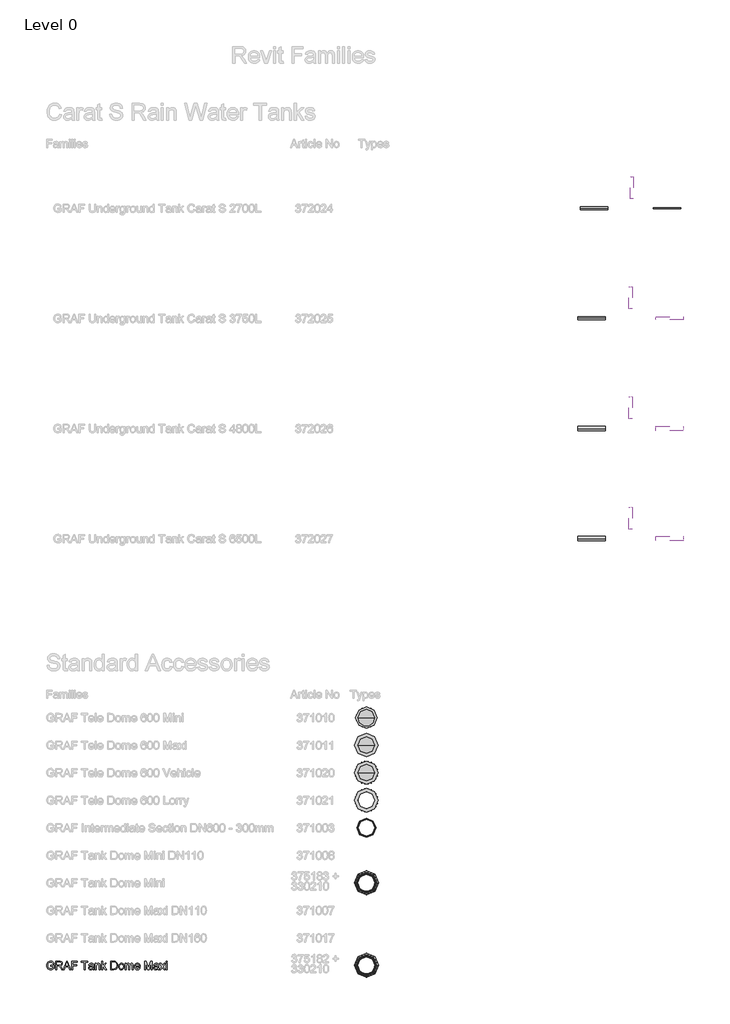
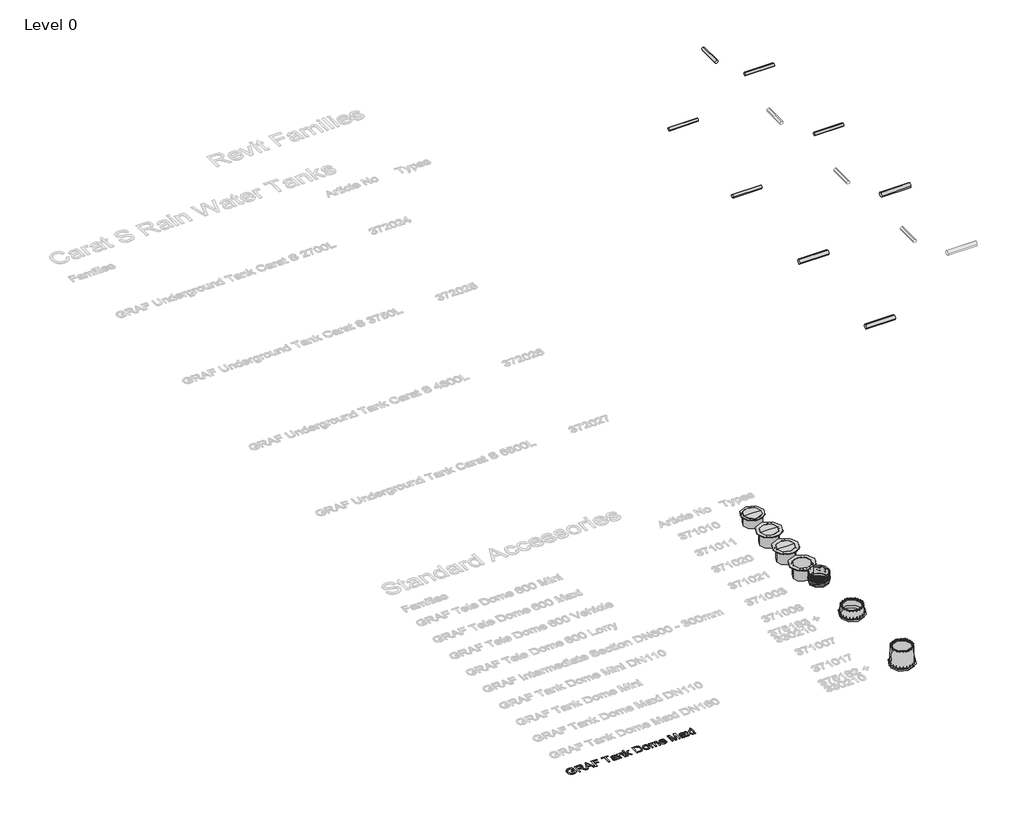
# One storey, part 1 of 20: 12 pipe segments, 8 proxies.
"""IFC4 building model written with IfcOpenShell, lengths in millimetres."""

from ifc_helpers import new_model, si_unit, point, frame, frame_2d, origin, origin_with_axes, place, context, project, spatial, polyline, circle_curve, trimmed, segment, composite_curve, outline, extrude, transform, mapped, element, save
from components import specialty_equipment_e8b2a2d0, specialty_equipment_5184973a, specialty_equipment_2c5f0238, proxy_600_mini_2_8c9d897d, dome_600_vehicle_2_504724ee, intermediate_section_dn600_300mm_2_32245d74, tank_dome_mini_c82e10f8

model = new_model("IFC4")

# Units and contexts
model_context = context("Model", 3, world=origin())
ifc_project = project(units=[si_unit("LENGTHUNIT", "METRE", prefix="MILLI")], contexts=[model_context])

# Site, building, storey
site = spatial("IfcSite", under=ifc_project)
building = spatial("IfcBuilding", under=site)
storey = spatial("IfcBuildingStorey", under=building, Name="Level 0", Elevation=0.0)

# Proxies
placement = place(None, origin())
specialty_equipment_shape = specialty_equipment_e8b2a2d0(model_context)
element("IfcBuildingElementProxy", 1, Name="GRAF Tank Dome Maxi : Tank Dome Maxi", ObjectType="GRAF Tank Dome Maxi : Tank Dome Maxi", at=placement, inside=storey, context=model_context, shape_type="MappedRepresentation", body=[
    mapped(specialty_equipment_shape, transform((-3770.8351154, -18050.7016432, 0.0), x_axis=(1.0, 0.0, 0.0), y_axis=(0.0, 1.0, 0.0), z_axis=(0.0, 0.0, 1.0))),
])
specialty_equipment_2_shape = specialty_equipment_5184973a(model_context)
element("IfcBuildingElementProxy", 2, Name="GRAF Tele Dome 600 Maxi : 600 Maxi 2", ObjectType="GRAF Tele Dome 600 Maxi : 600 Maxi 2", at=placement, inside=storey, context=model_context, shape_type="MappedRepresentation", body=[
    mapped(specialty_equipment_2_shape, transform((-3770.8351154, -10051.0975649, 0.0), x_axis=(1.0, 0.0, 0.0), y_axis=(0.0, 1.0, 0.0), z_axis=(0.0, 0.0, 1.0))),
])
specialty_equipment_3_shape = specialty_equipment_2c5f0238(model_context)
element("IfcBuildingElementProxy", 3, Name="GRAF Tele Dome 600 Lorry : Dome 600 Lorry 2", ObjectType="GRAF Tele Dome 600 Lorry : Dome 600 Lorry 2", at=placement, inside=storey, context=model_context, shape_type="MappedRepresentation", body=[
    mapped(specialty_equipment_3_shape, transform((-3770.8351154, -12050.7016432, 0.0), x_axis=(1.0, 0.0, 0.0), y_axis=(0.0, 1.0, 0.0), z_axis=(0.0, 0.0, 1.0))),
])
element("IfcBuildingElementProxy", 4, Name="300mm Arial", ObjectType="300mm Arial", at=placement, inside=storey, context=model_context, shape_type="SweptSolid", body=[
    extrude(outline(polyline([(-15240.9940387, -18082.9794047), (-15240.9940387, -18045.3082884), (-15118.5629107, -18045.3082884), (-15118.5629107, -18157.9537553), (-15148.3153671, -18178.6471176), (-15179.0059225, -18193.4911561), (-15210.5610007, -18202.4306885), (-15242.9070251, -18205.4105327), (-15285.1674693, -18200.674052), (-15323.3628175, -18186.46461), (-15355.0926395, -18163.2788472), (-15377.9565055, -18131.6134045), (-15391.7796715, -18093.6295885), (-15396.3873935, -18051.4887059), (-15391.7980656, -18009.0443207), (-15378.0300819, -17969.5613856), (-15355.6536596, -17936.442809), (-15325.2390156, -17913.0914993), (-15288.1932987, -17899.2407422), (-15245.9236575, -17894.6238232), (-15214.8928112, -17897.3001647), (-15186.9889618, -17905.3291892), (-15163.4904994, -17918.1314827), (-15145.6758138, -17935.1276309), (-15132.4964413, -17957.1361712), (-15122.9039183, -17984.9756412), (-15157.6319786, -17994.7613023), (-15165.3850917, -17974.9048716), (-15174.8120678, -17959.9228773), (-15187.2832674, -17948.6289001), (-15204.169051, -17939.8365204), (-15224.3013932, -17934.1803347), (-15246.5122687, -17932.2949395), (-15272.5123287, -17934.3274875), (-15294.7415982, -17940.4251316), (-15313.1173039, -17949.8245166), (-15327.5566722, -17961.7622873), (-15346.9440533, -17990.7881767), (-15355.7732212, -18019.225455), (-15358.7162772, -18049.9436015), (-15355.175413, -18085.9684459), (-15344.5528204, -18115.6105377), (-15327.1703961, -18138.6583447), (-15303.3500369, -18154.9003348), (-15275.4737787, -18164.529646), (-15245.9236575, -18167.7394164), (-15219.831627, -18165.3205923), (-15194.3833899, -18158.0641199), (-15172.2828791, -18148.0669267), (-15156.234027, -18137.42594), (-15156.234027, -18082.9794047), (-15240.9940387, -18082.9794047)])), origin_with_axes(), (0.0, 0.0, 1.0), 10.0),
    extrude(outline(polyline([(-15057.3473467, -18200.7016432), (-15057.3473467, -17899.3327127), (-14927.4850024, -17899.3327127), (-14892.5821982, -17901.3652607), (-14867.1891434, -17907.4629048), (-14848.6294968, -17918.7200939), (-14834.2269167, -17936.2312768), (-14824.9838815, -17957.9455116), (-14821.9028698, -17981.811856), (-14827.0072325, -18011.4999331), (-14842.3203206, -18036.1112385), (-14853.9200997, -18046.1406214), (-14868.3019865, -18054.1558504), (-14905.4120827, -18064.1438466), (-14884.0013506, -18080.257078), (-14853.467145, -18119.0318402), (-14803.2144645, -18200.7016432), (-14846.9924219, -18200.7016432), (-14886.2086426, -18138.2352804), (-14914.5355562, -18096.8853441), (-14934.4379722, -18077.3508102), (-14952.3538253, -18070.1771113), (-14974.2060158, -18068.8527361), (-15019.6762304, -18068.8527361), (-15019.6762304, -18200.7016432), (-15057.3473467, -18200.7016432)]), holes=[polyline([(-15019.6762304, -18031.1816198), (-14935.3576771, -18031.1816198), (-14911.1418448, -18029.8480476), (-14892.3522719, -18025.8473309), (-14878.2072092, -18018.9127553), (-14867.9249074, -18008.7776063), (-14861.6617165, -17996.5179388), (-14859.5739861, -17983.2098076), (-14863.5563087, -17964.834102), (-14875.5032765, -17950.0268517), (-14896.058683, -17940.2595847), (-14925.8663217, -17937.003829), (-15019.6762304, -17937.003829), (-15019.6762304, -18031.1816198)])]), origin_with_axes(), (0.0, 0.0, 1.0), 10.0),
    extrude(outline(polyline([(-14791.0743586, -18200.7016432), (-14670.7769462, -17899.3327127), (-14638.6976362, -17899.3327127), (-14518.4002238, -18200.7016432), (-14558.2050557, -18200.7016432), (-14592.7123868, -18106.5238524), (-14716.835772, -18106.5238524), (-14751.2695268, -18200.7016432), (-14791.0743586, -18200.7016432)]), holes=[polyline([(-14703.003409, -18068.8527361), (-14606.4711735, -18068.8527361), (-14633.6208647, -17994.7613023), (-14654.7372912, -17937.003829), (-14673.499273, -17988.2865792), (-14703.003409, -18068.8527361)])]), origin_with_axes(), (0.0, 0.0, 1.0), 10.0),
    extrude(outline(polyline([(-14478.1539335, -18200.7016432), (-14478.1539335, -17899.3327127), (-14275.6716834, -17899.3327127), (-14275.6716834, -17937.003829), (-14440.4828172, -17937.003829), (-14440.4828172, -18026.4727303), (-14299.2161311, -18026.4727303), (-14299.2161311, -18064.1438466), (-14440.4828172, -18064.1438466), (-14440.4828172, -18200.7016432), (-14478.1539335, -18200.7016432)])), origin_with_axes(), (0.0, 0.0, 1.0), 10.0),
    extrude(outline(polyline([(-14030.8094274, -18200.7016432), (-14030.8094274, -17937.003829), (-14129.6961077, -17937.003829), (-14129.6961077, -17899.3327127), (-13894.2516308, -17899.3327127), (-13894.2516308, -17937.003829), (-13993.1383111, -17937.003829), (-13993.1383111, -18200.7016432), (-14030.8094274, -18200.7016432)])), origin_with_axes(), (0.0, 0.0, 1.0), 10.0),
    extrude(outline(polyline([(-13715.3138283, -18172.4483059), (-13733.312455, -18187.8809556), (-13751.8445105, -18197.9793164), (-13771.3330592, -18203.5527286), (-13792.2011653, -18205.4105327), (-13823.6826671, -18200.9407665), (-13846.905218, -18187.5314677), (-13861.2250247, -18167.1691993), (-13865.9982936, -18141.8405239), (-13864.1956718, -18126.2239332), (-13858.7878065, -18112.0420823), (-13850.4460822, -18099.9019765), (-13839.8418837, -18090.410621), (-13813.4647447, -18078.049786), (-13780.8703999, -18072.3844033), (-13742.353155, -18066.4247149), (-13715.5345575, -18059.434957), (-13715.3138283, -18051.0472475), (-13717.9073964, -18034.2350404), (-13725.6881006, -18023.2353687), (-13743.088919, -18015.0683884), (-13767.3323425, -18012.3460616), (-13789.7731442, -18014.1578805), (-13805.4449172, -18019.5933369), (-13816.1318891, -18029.6457125), (-13823.6182877, -18045.3082884), (-13861.289404, -18040.5993989), (-13854.7503016, -18019.9980071), (-13844.9922316, -18003.8111994), (-13831.1046863, -17991.4319702), (-13812.1771577, -17982.2533144), (-13789.0281831, -17976.5695376), (-13762.4763001, -17974.6749453), (-13737.009669, -17976.3488084), (-13716.8221445, -17981.3703976), (-13701.601027, -17988.9211756), (-13691.0336167, -17998.1826048), (-13684.0254646, -18009.6329319), (-13679.482122, -18023.7504035), (-13677.642712, -18056.7126303), (-13677.642712, -18103.5807964), (-13675.7297257, -18169.0270034), (-13668.224933, -18200.7016432), (-13705.8960493, -18200.7016432), (-13715.3138283, -18172.4483059)]), holes=[polyline([(-13715.3138283, -18097.1060733), (-13776.0879339, -18108.657568), (-13808.4983377, -18114.7644091), (-13823.1768293, -18124.697223), (-13828.3271773, -18139.1917736), (-13825.522077, -18150.3937803), (-13817.1067764, -18159.5724361), (-13803.2652163, -18165.6976713), (-13784.1813378, -18167.7394164), (-13763.9478281, -18165.4861392), (-13746.0687631, -18158.7263075), (-13731.5742125, -18148.7659025), (-13721.4942459, -18136.9109052), (-13717.0244796, -18124.697223), (-13715.5345575, -18107.7746512), (-13715.3138283, -18097.1060733)])]), origin_with_axes(), (0.0, 0.0, 1.0), 10.0),
    extrude(outline(polyline([(-13625.8449271, -18200.7016432), (-13625.8449271, -17979.3838349), (-13588.1738108, -17979.3838349), (-13588.1738108, -18010.2859225), (-13575.0864088, -17994.70612), (-13559.3686506, -17983.5776896), (-13541.0205361, -17976.9006314), (-13520.0420653, -17974.6749453), (-13501.4732216, -17976.4683701), (-13484.4678764, -17981.8486442), (-13470.2860255, -17990.1443832), (-13460.1876647, -18000.6842024), (-13448.8936874, -18028.3857166), (-13446.9071247, -18064.8060342), (-13446.9071247, -18200.7016432), (-13484.578241, -18200.7016432), (-13484.578241, -18069.8828057), (-13488.9192485, -18036.5526969), (-13494.9249221, -18026.6290801), (-13504.2599277, -18018.9311494), (-13516.2252896, -18013.9923336), (-13530.122032, -18012.3460616), (-13552.1857546, -18016.0432757), (-13570.9937216, -18027.1349178), (-13578.5100106, -18036.1894135), (-13583.8787885, -18048.5640441), (-13588.1738108, -18083.2737103), (-13588.1738108, -18200.7016432), (-13625.8449271, -18200.7016432)])), origin_with_axes(), (0.0, 0.0, 1.0), 10.0),
    extrude(outline(polyline([(-13395.1093397, -18200.7016432), (-13395.1093397, -17899.3327127), (-13357.4382234, -17899.3327127), (-13357.4382234, -18061.274367), (-13272.9725173, -17979.3838349), (-13220.8804268, -17979.3838349), (-13306.3762025, -18062.3044366), (-13216.1715373, -18200.7016432), (-13260.1702239, -18200.7016432), (-13333.3787409, -18088.4976346), (-13357.4382234, -18111.8213531), (-13357.4382234, -18200.7016432), (-13395.1093397, -18200.7016432)])), origin_with_axes(), (0.0, 0.0, 1.0), 10.0),
    extrude(outline(polyline([(-13060.7781825, -18200.7016432), (-13060.7781825, -17899.3327127), (-12956.8147307, -17899.3327127), (-12903.030383, -17903.6737203), (-12879.0076887, -17912.0430357), (-12858.7373908, -17925.2316052), (-12837.8968757, -17948.1874417), (-12823.0528372, -17976.7350845), (-12814.1684871, -18010.3227107), (-12811.207037, -18048.3984972), (-12813.2119939, -18080.7445216), (-12819.2268645, -18109.209391), (-12828.3871262, -18133.4436174), (-12839.8282562, -18153.097713), (-12852.9984316, -18168.6131361), (-12867.3458295, -18180.4313452), (-12883.8177458, -18189.1961338), (-12903.3614768, -18195.5512952), (-12951.8115355, -18200.7016432), (-13060.7781825, -18200.7016432)]), holes=[polyline([(-13023.1070662, -18163.0305269), (-12956.4468487, -18163.0305269), (-12928.8740931, -18161.6693635), (-12907.9600017, -18157.5858733), (-12892.1778641, -18151.0191797), (-12880.0009701, -18142.2084059), (-12866.9135681, -18125.9020365), (-12857.0819218, -18104.794807), (-12850.9290954, -18078.794747), (-12848.8781533, -18047.809886), (-12852.8972641, -18006.7542553), (-12864.9545965, -17976.4407789), (-12882.7692821, -17955.618658), (-12904.0604526, -17943.0370938), (-12925.7287021, -17938.5121452), (-12957.4769183, -17937.003829), (-13023.1070662, -17937.003829), (-13023.1070662, -18163.0305269)])]), origin_with_axes(), (0.0, 0.0, 1.0), 10.0),
    extrude(outline(polyline([(-12773.5359207, -18090.042739), (-12771.4987741, -18061.3801331), (-12765.3873345, -18036.6814556), (-12755.2016018, -18015.9467067), (-12740.9415759, -17999.1758862), (-12726.5849811, -17988.4567246), (-12710.7384641, -17980.8001806), (-12693.4020251, -17976.2062541), (-12674.575664, -17974.6749453), (-12653.7926305, -17976.5396472), (-12635.0007584, -17982.1337528), (-12618.2000475, -17991.4572621), (-12603.3904979, -18004.5101751), (-12591.3032751, -18020.8510335), (-12582.6695445, -18040.0383788), (-12577.4893062, -18062.0722111), (-12575.7625601, -18086.9525303), (-12578.8159806, -18125.0099227), (-12587.9762423, -18153.9806298), (-12602.9766307, -18175.6764705), (-12623.5504313, -18191.9092635), (-12647.9869928, -18202.0352154), (-12674.575664, -18205.4105327), (-12695.6622001, -18203.5527286), (-12714.6288162, -18197.9793164), (-12731.4755123, -18188.690296), (-12746.2022884, -18175.6856675), (-12758.1607526, -18159.18616), (-12766.7025126, -18139.4125028), (-12771.8275687, -18116.3646958), (-12773.5359207, -18090.042739)]), holes=[polyline([(-12735.8648044, -18089.9691626), (-12731.5054027, -18124.0626265), (-12718.4271978, -18148.3520353), (-12698.7455111, -18162.8925711), (-12674.575664, -18167.7394164), (-12650.5161815, -18162.86498), (-12630.871283, -18148.2416707), (-12617.793078, -18123.6303652), (-12613.4336764, -18088.7919402), (-12617.8206692, -18055.6917577), (-12630.9816476, -18031.7334428), (-12650.6541372, -18017.1929069), (-12674.575664, -18012.3460616), (-12698.7455111, -18017.1745128), (-12718.4271978, -18031.6598664), (-12731.5054027, -18055.8940928), (-12735.8648044, -18089.9691626)])]), origin_with_axes(), (0.0, 0.0, 1.0), 10.0),
    extrude(outline(polyline([(-12533.3825542, -18200.7016432), (-12533.3825542, -17979.3838349), (-12495.7114379, -17979.3838349), (-12495.7114379, -18015.8041524), (-12484.3806725, -17999.0747187), (-12469.8125455, -17985.9689226), (-12452.5036976, -17977.4984396), (-12432.9507696, -17974.6749453), (-12411.9998899, -17977.5536219), (-12395.2060768, -17986.1896518), (-12382.6613008, -18000.0128178), (-12374.4575323, -18018.4529028), (-12360.7263368, -17999.3000464), (-12345.0637609, -17985.6194347), (-12327.4698045, -17977.4110677), (-12307.9444676, -17974.6749453), (-12279.626751, -17979.227485), (-12258.6850684, -17992.8851041), (-12245.7448193, -18016.0156845), (-12241.4314029, -18048.9871084), (-12241.4314029, -18200.7016432), (-12279.1025192, -18200.7016432), (-12279.1025192, -18065.1739161), (-12282.5973981, -18033.7200056), (-12287.5086228, -18025.0471875), (-12295.2525388, -18018.2321736), (-12305.2129438, -18013.8175896), (-12316.7736355, -18012.3460616), (-12337.1818892, -18016.1168521), (-12353.8193524, -18027.4292234), (-12364.8834034, -18047.0557279), (-12368.5714204, -18075.7689176), (-12368.5714204, -18200.7016432), (-12406.2425367, -18200.7016432), (-12406.2425367, -18060.9800614), (-12408.4222375, -18039.6796939), (-12414.96134, -18024.4861675), (-12426.4668494, -18015.3810881), (-12443.545771, -18012.3460616), (-12458.0587157, -18014.3694126), (-12471.4312262, -18020.4394655), (-12482.4676861, -18030.4090676), (-12489.9724788, -18044.131066), (-12494.2766981, -18063.1689593), (-12495.7114379, -18089.0862458), (-12495.7114379, -18200.7016432), (-12533.3825542, -18200.7016432)])), origin_with_axes(), (0.0, 0.0, 1.0), 10.0),
    extrude(outline(polyline([(-12029.972832, -18134.7771896), (-11993.0374797, -18139.4860792), (-12006.3456109, -18167.3163521), (-12027.5815991, -18188.1200789), (-12056.2671976, -18201.0879193), (-12091.92416, -18205.4105327), (-12115.2984623, -18203.5458308), (-12136.1251817, -18197.9517253), (-12154.4043184, -18188.6282159), (-12170.1358722, -18175.5753029), (-12182.7864143, -18159.1562696), (-12191.8225158, -18139.7343995), (-12197.2441767, -18117.3096927), (-12199.051397, -18091.882149), (-12197.2257826, -18065.5923819), (-12191.7489394, -18042.4204147), (-12182.6208674, -18022.3662475), (-12169.8415666, -18005.4298801), (-12154.1513995, -17991.9745962), (-12136.2907286, -17982.363679), (-12116.259554, -17976.5971288), (-12094.0578756, -17974.6749453), (-12072.5712678, -17976.5925302), (-12053.1402007, -17982.3452849), (-12035.7646742, -17991.9332094), (-12020.4446884, -18005.3563037), (-12007.9389998, -18022.2558829), (-11999.0063651, -18042.2732619), (-11993.6467843, -18065.4084409), (-11991.8602573, -18091.6614198), (-11992.0809865, -18101.8149629), (-12161.3802807, -18101.8149629), (-12154.8595723, -18130.0131178), (-12139.7120312, -18150.7432682), (-12117.8506436, -18163.4903794), (-12091.188396, -18167.7394164), (-12071.1388273, -18165.7712477), (-12054.2530437, -18159.8667417), (-12040.5310453, -18149.6580163), (-12029.972832, -18134.7771896)]), holes=[polyline([(-12161.3802807, -18064.1438466), (-12029.5313736, -18064.1438466), (-12034.6265393, -18044.2414306), (-12044.6145354, -18030.0043974), (-12066.5770906, -18016.7606456), (-12094.2050284, -18012.3460616), (-12119.5980831, -18015.8685317), (-12140.594948, -18026.4359421), (-12155.1906661, -18042.9078584), (-12161.3802807, -18064.1438466)])]), origin_with_axes(), (0.0, 0.0, 1.0), 10.0),
    extrude(outline(polyline([(-11831.758013, -18200.7016432), (-11831.758013, -17899.3327127), (-11766.9372055, -17899.3327127), (-11705.2801831, -18111.7477767), (-11692.8457717, -18156.1143454), (-11679.3812906, -18108.0689568), (-11618.7543378, -17899.3327127), (-11553.9335303, -17899.3327127), (-11553.9335303, -18200.7016432), (-11591.6046466, -18200.7016432), (-11591.6046466, -17937.003829), (-11667.3147612, -18200.7016432), (-11718.3767821, -18200.7016432), (-11794.0868967, -17937.003829), (-11794.0868967, -18200.7016432), (-11831.758013, -18200.7016432)])), origin_with_axes(), (0.0, 0.0, 1.0), 10.0),
    extrude(outline(polyline([(-11351.4512801, -18172.4483059), (-11369.4499067, -18187.8809556), (-11387.9819623, -18197.9793164), (-11407.4705109, -18203.5527286), (-11428.3386171, -18205.4105327), (-11459.8201189, -18200.9407665), (-11483.0426698, -18187.5314677), (-11497.3624765, -18167.1691993), (-11502.1357454, -18141.8405239), (-11500.3331236, -18126.2239332), (-11494.9252582, -18112.0420823), (-11486.583534, -18099.9019765), (-11475.9793355, -18090.410621), (-11449.6021964, -18078.049786), (-11417.0078517, -18072.3844033), (-11378.4906068, -18066.4247149), (-11351.6720093, -18059.434957), (-11351.4512801, -18051.0472475), (-11354.0448482, -18034.2350404), (-11361.8255524, -18023.2353687), (-11379.2263708, -18015.0683884), (-11403.4697942, -18012.3460616), (-11425.910596, -18014.1578805), (-11441.5823689, -18019.5933369), (-11452.2693409, -18029.6457125), (-11459.7557395, -18045.3082884), (-11497.4268558, -18040.5993989), (-11490.8877534, -18019.9980071), (-11481.1296834, -18003.8111994), (-11467.2421381, -17991.4319702), (-11448.3146095, -17982.2533144), (-11425.1656349, -17976.5695376), (-11398.6137519, -17974.6749453), (-11373.1471208, -17976.3488084), (-11352.9595963, -17981.3703976), (-11337.7384788, -17988.9211756), (-11327.1710684, -17998.1826048), (-11320.1629164, -18009.6329319), (-11315.6195738, -18023.7504035), (-11313.7801638, -18056.7126303), (-11313.7801638, -18103.5807964), (-11311.8671774, -18169.0270034), (-11304.3623847, -18200.7016432), (-11342.0335011, -18200.7016432), (-11351.4512801, -18172.4483059)]), holes=[polyline([(-11351.4512801, -18097.1060733), (-11412.2253857, -18108.657568), (-11444.6357895, -18114.7644091), (-11459.3142811, -18124.697223), (-11464.464629, -18139.1917736), (-11461.6595288, -18150.3937803), (-11453.2442282, -18159.5724361), (-11439.4026681, -18165.6976713), (-11420.3187896, -18167.7394164), (-11400.0852799, -18165.4861392), (-11382.2062149, -18158.7263075), (-11367.7116643, -18148.7659025), (-11357.6316976, -18136.9109052), (-11353.1619314, -18124.697223), (-11351.6720093, -18107.7746512), (-11351.4512801, -18097.1060733)])]), origin_with_axes(), (0.0, 0.0, 1.0), 10.0),
    extrude(outline(polyline([(-11285.5268266, -18200.7016432), (-11205.0342461, -18089.4541278), (-11280.8179371, -17979.3838349), (-11235.4948753, -17979.3838349), (-11198.9274049, -18032.3588422), (-11181.8576804, -18057.3748179), (-11167.0688241, -18036.9205789), (-11125.4245823, -17979.3838349), (-11080.1015205, -17979.3838349), (-11159.7111842, -18089.4541278), (-11083.0445764, -18200.7016432), (-11128.3676383, -18200.7016432), (-11174.5000405, -18133.8206964), (-11182.9613263, -18121.6070142), (-11240.2037648, -18200.7016432), (-11285.5268266, -18200.7016432)])), origin_with_axes(), (0.0, 0.0, 1.0), 10.0),
    extrude(outline(polyline([(-11050.0823497, -17937.003829), (-11050.0823497, -17899.3327127), (-11012.4112334, -17899.3327127), (-11012.4112334, -17937.003829), (-11050.0823497, -17937.003829)])), origin_with_axes(), (0.0, 0.0, 1.0), 10.0),
    extrude(outline(polyline([(-11050.0823497, -18200.7016432), (-11050.0823497, -17979.3838349), (-11012.4112334, -17979.3838349), (-11012.4112334, -18200.7016432), (-11050.0823497, -18200.7016432)])), origin_with_axes(), (0.0, 0.0, 1.0), 10.0),
])
proxy_600_mini_2_shape = proxy_600_mini_2_8c9d897d(model_context)
element("IfcBuildingElementProxy", 5, Name="GRAF Tele Dome 600 Mini : 600 Mini 2", ObjectType="GRAF Tele Dome 600 Mini : 600 Mini 2", at=placement, inside=storey, context=model_context, shape_type="MappedRepresentation", body=[
    mapped(proxy_600_mini_2_shape, transform((-3770.8351154, -9051.0975649, 0.0), x_axis=(1.0, 0.0, 0.0), y_axis=(0.0, 1.0, 0.0), z_axis=(0.0, 0.0, 1.0))),
])
dome_600_vehicle_2_shape = dome_600_vehicle_2_504724ee(model_context)
element("IfcBuildingElementProxy", 6, Name="GRAF Tele Dome 600 Vehicle : Dome 600 Vehicle 2", ObjectType="GRAF Tele Dome 600 Vehicle : Dome 600 Vehicle 2", at=placement, inside=storey, context=model_context, shape_type="MappedRepresentation", body=[
    mapped(dome_600_vehicle_2_shape, transform((-3770.8351154, -11050.7016432, 0.0), x_axis=(1.0, 0.0, 0.0), y_axis=(0.0, 1.0, 0.0), z_axis=(0.0, 0.0, 1.0))),
])
intermediate_section_dn600_300mm_2_shape = intermediate_section_dn600_300mm_2_32245d74(model_context)
element("IfcBuildingElementProxy", 7, Name="GRAF Intermediate Section DN600 - 300mm : Intermediate Section DN600 - 300mm 2", ObjectType="GRAF Intermediate Section DN600 - 300mm : Intermediate Section DN600 - 300mm 2", at=placement, inside=storey, context=model_context, shape_type="MappedRepresentation", body=[
    mapped(intermediate_section_dn600_300mm_2_shape, transform((-3485.8351154, -13050.7016432, 0.0), x_axis=(1.0, 0.0, 0.0), y_axis=(0.0, 1.0, 0.0), z_axis=(0.0, 0.0, 1.0))),
])
tank_dome_mini_shape = tank_dome_mini_c82e10f8(model_context)
element("IfcBuildingElementProxy", 8, Name="GRAF Tank Dome Mini : Tank Dome Mini", ObjectType="GRAF Tank Dome Mini : Tank Dome Mini", at=placement, inside=storey, context=model_context, shape_type="MappedRepresentation", body=[
    mapped(tank_dome_mini_shape, transform((-3770.8351154, -15050.7016432, 0.0), x_axis=(1.0, 0.0, 0.0), y_axis=(0.0, 1.0, 0.0), z_axis=(0.0, 0.0, 1.0))),
])

# Pipe segments
element("IfcPipeSegment", 9, ObjectType="PE Waste Water", at=placement, inside=storey, context=model_context, shape_type="SweptSolid", body=[
    extrude(outline(composite_curve([segment(trimmed(circle_curve(frame_2d((9449.0232018, 1250.0)), 55.0), [point((9394.0232018, 1250.0))], [point((9449.0232018, 1305.0))], False, "CARTESIAN"), True, "CONTINUOUS"), segment(trimmed(circle_curve(frame_2d((9449.0232018, 1250.0)), 55.0), [point((9449.0232018, 1305.0))], [point((9504.0232018, 1250.0))], False, "CARTESIAN"), True, "CONTINUOUS"), segment(trimmed(circle_curve(frame_2d((9449.0232018, 1250.0)), 55.0), [point((9504.0232018, 1250.0))], [point((9449.0232018, 1195.0))], False, "CARTESIAN"), True, "CONTINUOUS"), segment(trimmed(circle_curve(frame_2d((9449.0232018, 1250.0)), 55.0), [point((9449.0232018, 1195.0))], [point((9394.0232018, 1250.0))], False, "CARTESIAN"), True, "CONTINUOUS")], self_intersect=False)), frame((6649.128271, 0.0, 0.0), z_axis=(1.0, 0.0, 0.0), x_axis=(0.0, 1.0, 0.0)), (0.0, 0.0, 1.0), 1000.0),
])
element("IfcPipeSegment", 10, ObjectType="PE Waste Water", at=placement, inside=storey, context=model_context, shape_type="SweptSolid", body=[
    extrude(outline(composite_curve([segment(trimmed(circle_curve(frame_2d((5449.0232018, 1440.0)), 55.0), [point((5394.0232018, 1440.0))], [point((5449.0232018, 1495.0))], False, "CARTESIAN"), True, "CONTINUOUS"), segment(trimmed(circle_curve(frame_2d((5449.0232018, 1440.0)), 55.0), [point((5449.0232018, 1495.0))], [point((5504.0232018, 1440.0))], False, "CARTESIAN"), True, "CONTINUOUS"), segment(trimmed(circle_curve(frame_2d((5449.0232018, 1440.0)), 55.0), [point((5504.0232018, 1440.0))], [point((5449.0232018, 1385.0))], False, "CARTESIAN"), True, "CONTINUOUS"), segment(trimmed(circle_curve(frame_2d((5449.0232018, 1440.0)), 55.0), [point((5449.0232018, 1385.0))], [point((5394.0232018, 1440.0))], False, "CARTESIAN"), True, "CONTINUOUS")], self_intersect=False)), frame((6749.128271, 0.0, 0.0), z_axis=(1.0, 0.0, 0.0), x_axis=(0.0, 1.0, 0.0)), (0.0, 0.0, 1.0), 1000.0),
])
element("IfcPipeSegment", 11, ObjectType="PE Waste Water", at=placement, inside=storey, context=model_context, shape_type="SweptSolid", body=[
    extrude(outline(composite_curve([segment(trimmed(circle_curve(frame_2d((1449.0232018, 1645.0)), 80.0), [point((1369.0232018, 1645.0))], [point((1449.0232018, 1725.0))], False, "CARTESIAN"), True, "CONTINUOUS"), segment(trimmed(circle_curve(frame_2d((1449.0232018, 1645.0)), 80.0), [point((1449.0232018, 1725.0))], [point((1529.0232018, 1645.0))], False, "CARTESIAN"), True, "CONTINUOUS"), segment(trimmed(circle_curve(frame_2d((1449.0232018, 1645.0)), 80.0), [point((1529.0232018, 1645.0))], [point((1449.0232018, 1565.0))], False, "CARTESIAN"), True, "CONTINUOUS"), segment(trimmed(circle_curve(frame_2d((1449.0232018, 1645.0)), 80.0), [point((1449.0232018, 1565.0))], [point((1369.0232018, 1645.0))], False, "CARTESIAN"), True, "CONTINUOUS")], self_intersect=False)), frame((6749.128271, 0.0, 0.0), z_axis=(1.0, 0.0, 0.0), x_axis=(0.0, 1.0, 0.0)), (0.0, 0.0, 1.0), 1000.0),
])
element("IfcPipeSegment", 12, ObjectType="PE Waste Water", at=placement, inside=storey, context=model_context, shape_type="SweptSolid", body=[
    extrude(outline(composite_curve([segment(trimmed(circle_curve(frame_2d((-2550.9767982, 1925.0)), 80.0), [point((-2630.9767982, 1925.0))], [point((-2550.9767982, 2005.0))], False, "CARTESIAN"), True, "CONTINUOUS"), segment(trimmed(circle_curve(frame_2d((-2550.9767982, 1925.0)), 80.0), [point((-2550.9767982, 2005.0))], [point((-2470.9767982, 1925.0))], False, "CARTESIAN"), True, "CONTINUOUS"), segment(trimmed(circle_curve(frame_2d((-2550.9767982, 1925.0)), 80.0), [point((-2470.9767982, 1925.0))], [point((-2550.9767982, 1845.0))], False, "CARTESIAN"), True, "CONTINUOUS"), segment(trimmed(circle_curve(frame_2d((-2550.9767982, 1925.0)), 80.0), [point((-2550.9767982, 1845.0))], [point((-2630.9767982, 1925.0))], False, "CARTESIAN"), True, "CONTINUOUS")], self_intersect=False)), frame((6749.128271, 0.0, 0.0), z_axis=(1.0, 0.0, 0.0), x_axis=(0.0, 1.0, 0.0)), (0.0, 0.0, 1.0), 1000.0),
])
element("IfcPipeSegment", 13, ObjectType="PE Waste Water", at=placement, inside=storey, context=model_context, shape_type="SweptSolid", body=[
    extrude(outline(composite_curve([segment(trimmed(circle_curve(frame_2d((-2550.9767982, 215.0)), 80.0), [point((-2470.9767982, 215.0))], [point((-2550.9767982, 135.0))], False, "CARTESIAN"), True, "CONTINUOUS"), segment(trimmed(circle_curve(frame_2d((-2550.9767982, 215.0)), 80.0), [point((-2550.9767982, 135.0))], [point((-2630.9767982, 215.0))], False, "CARTESIAN"), True, "CONTINUOUS"), segment(trimmed(circle_curve(frame_2d((-2550.9767982, 215.0)), 80.0), [point((-2630.9767982, 215.0))], [point((-2550.9767982, 295.0))], False, "CARTESIAN"), True, "CONTINUOUS"), segment(trimmed(circle_curve(frame_2d((-2550.9767982, 215.0)), 80.0), [point((-2550.9767982, 295.0))], [point((-2470.9767982, 215.0))], False, "CARTESIAN"), True, "CONTINUOUS")], self_intersect=False)), frame((3910.6313279, 0.0, 0.0), z_axis=(1.0, 0.0, 0.0), x_axis=(0.0, 1.0, 0.0)), (0.0, 0.0, 1.0), 1000.0),
])
element("IfcPipeSegment", 14, ObjectType="PE Waste Water", at=placement, inside=storey, context=model_context, shape_type="SweptSolid", body=[
    extrude(outline(composite_curve([segment(trimmed(circle_curve(frame_2d((1449.0232018, 175.0)), 80.0), [point((1529.0232018, 175.0))], [point((1449.0232018, 95.0))], False, "CARTESIAN"), True, "CONTINUOUS"), segment(trimmed(circle_curve(frame_2d((1449.0232018, 175.0)), 80.0), [point((1449.0232018, 95.0))], [point((1369.0232018, 175.0))], False, "CARTESIAN"), True, "CONTINUOUS"), segment(trimmed(circle_curve(frame_2d((1449.0232018, 175.0)), 80.0), [point((1369.0232018, 175.0))], [point((1449.0232018, 255.0))], False, "CARTESIAN"), True, "CONTINUOUS"), segment(trimmed(circle_curve(frame_2d((1449.0232018, 175.0)), 80.0), [point((1449.0232018, 255.0))], [point((1529.0232018, 175.0))], False, "CARTESIAN"), True, "CONTINUOUS")], self_intersect=False)), frame((3910.6313279, 0.0, 0.0), z_axis=(1.0, 0.0, 0.0), x_axis=(0.0, 1.0, 0.0)), (0.0, 0.0, 1.0), 1000.0),
])
element("IfcPipeSegment", 15, ObjectType="PE Waste Water", at=placement, inside=storey, context=model_context, shape_type="SweptSolid", body=[
    extrude(outline(composite_curve([segment(trimmed(circle_curve(frame_2d((5449.0232018, 150.0)), 55.0), [point((5504.0232018, 150.0))], [point((5449.0232018, 95.0))], False, "CARTESIAN"), True, "CONTINUOUS"), segment(trimmed(circle_curve(frame_2d((5449.0232018, 150.0)), 55.0), [point((5449.0232018, 95.0))], [point((5394.0232018, 150.0))], False, "CARTESIAN"), True, "CONTINUOUS"), segment(trimmed(circle_curve(frame_2d((5449.0232018, 150.0)), 55.0), [point((5394.0232018, 150.0))], [point((5449.0232018, 205.0))], False, "CARTESIAN"), True, "CONTINUOUS"), segment(trimmed(circle_curve(frame_2d((5449.0232018, 150.0)), 55.0), [point((5449.0232018, 205.0))], [point((5504.0232018, 150.0))], False, "CARTESIAN"), True, "CONTINUOUS")], self_intersect=False)), frame((3910.6313279, 0.0, 0.0), z_axis=(1.0, 0.0, 0.0), x_axis=(0.0, 1.0, 0.0)), (0.0, 0.0, 1.0), 1000.0),
])
element("IfcPipeSegment", 16, ObjectType="PE Waste Water", at=placement, inside=storey, context=model_context, shape_type="SweptSolid", body=[
    extrude(outline(composite_curve([segment(trimmed(circle_curve(frame_2d((9449.0232018, 150.0)), 55.0), [point((9504.0232018, 150.0))], [point((9449.0232018, 95.0))], False, "CARTESIAN"), True, "CONTINUOUS"), segment(trimmed(circle_curve(frame_2d((9449.0232018, 150.0)), 55.0), [point((9449.0232018, 95.0))], [point((9394.0232018, 150.0))], False, "CARTESIAN"), True, "CONTINUOUS"), segment(trimmed(circle_curve(frame_2d((9449.0232018, 150.0)), 55.0), [point((9394.0232018, 150.0))], [point((9449.0232018, 205.0))], False, "CARTESIAN"), True, "CONTINUOUS"), segment(trimmed(circle_curve(frame_2d((9449.0232018, 150.0)), 55.0), [point((9449.0232018, 205.0))], [point((9504.0232018, 150.0))], False, "CARTESIAN"), True, "CONTINUOUS")], self_intersect=False)), frame((4010.6313279, 0.0, 0.0), z_axis=(1.0, 0.0, 0.0), x_axis=(0.0, 1.0, 0.0)), (0.0, 0.0, 1.0), 1000.0),
])
element("IfcPipeSegment", 17, ObjectType="PE Waste Water", at=placement, inside=storey, context=model_context, shape_type="SweptSolid", body=[
    extrude(outline(composite_curve([segment(trimmed(circle_curve(frame_2d((1765.0, 5869.8797995)), 55.0), [point((1765.0, 5924.8797995))], [point((1820.0, 5869.8797995))], False, "CARTESIAN"), True, "CONTINUOUS"), segment(trimmed(circle_curve(frame_2d((1765.0, 5869.8797995)), 55.0), [point((1820.0, 5869.8797995))], [point((1765.0, 5814.8797995))], False, "CARTESIAN"), True, "CONTINUOUS"), segment(trimmed(circle_curve(frame_2d((1765.0, 5869.8797995)), 55.0), [point((1765.0, 5814.8797995))], [point((1710.0, 5869.8797995))], False, "CARTESIAN"), True, "CONTINUOUS"), segment(trimmed(circle_curve(frame_2d((1765.0, 5869.8797995)), 55.0), [point((1710.0, 5869.8797995))], [point((1765.0, 5924.8797995))], False, "CARTESIAN"), True, "CONTINUOUS")], self_intersect=False)), frame((0.0, 9799.0232018, 0.0), z_axis=(0.0, 1.0, 0.0), x_axis=(0.0, 0.0, 1.0)), (0.0, 0.0, 1.0), 800.0),
])
element("IfcPipeSegment", 18, ObjectType="PE Waste Water", at=placement, inside=storey, context=model_context, shape_type="SweptSolid", body=[
    extrude(outline(composite_curve([segment(trimmed(circle_curve(frame_2d((1955.0, 5829.8797995)), 55.0), [point((1955.0, 5884.8797995))], [point((2010.0, 5829.8797995))], False, "CARTESIAN"), True, "CONTINUOUS"), segment(trimmed(circle_curve(frame_2d((1955.0, 5829.8797995)), 55.0), [point((2010.0, 5829.8797995))], [point((1955.0, 5774.8797995))], False, "CARTESIAN"), True, "CONTINUOUS"), segment(trimmed(circle_curve(frame_2d((1955.0, 5829.8797995)), 55.0), [point((1955.0, 5774.8797995))], [point((1900.0, 5829.8797995))], False, "CARTESIAN"), True, "CONTINUOUS"), segment(trimmed(circle_curve(frame_2d((1955.0, 5829.8797995)), 55.0), [point((1900.0, 5829.8797995))], [point((1955.0, 5884.8797995))], False, "CARTESIAN"), True, "CONTINUOUS")], self_intersect=False)), frame((0.0, 5799.0232018, 0.0), z_axis=(0.0, 1.0, 0.0), x_axis=(0.0, 0.0, 1.0)), (0.0, 0.0, 1.0), 800.0),
])
element("IfcPipeSegment", 19, ObjectType="PE Waste Water", at=placement, inside=storey, context=model_context, shape_type="SweptSolid", body=[
    extrude(outline(composite_curve([segment(trimmed(circle_curve(frame_2d((2185.0, 5829.8797995)), 55.0), [point((2185.0, 5884.8797995))], [point((2240.0, 5829.8797995))], False, "CARTESIAN"), True, "CONTINUOUS"), segment(trimmed(circle_curve(frame_2d((2185.0, 5829.8797995)), 55.0), [point((2240.0, 5829.8797995))], [point((2185.0, 5774.8797995))], False, "CARTESIAN"), True, "CONTINUOUS"), segment(trimmed(circle_curve(frame_2d((2185.0, 5829.8797995)), 55.0), [point((2185.0, 5774.8797995))], [point((2130.0, 5829.8797995))], False, "CARTESIAN"), True, "CONTINUOUS"), segment(trimmed(circle_curve(frame_2d((2185.0, 5829.8797995)), 55.0), [point((2130.0, 5829.8797995))], [point((2185.0, 5884.8797995))], False, "CARTESIAN"), True, "CONTINUOUS")], self_intersect=False)), frame((0.0, 1799.0232018, 0.0), z_axis=(0.0, 1.0, 0.0), x_axis=(0.0, 0.0, 1.0)), (0.0, 0.0, 1.0), 800.0),
])
element("IfcPipeSegment", 20, ObjectType="PE Waste Water", at=placement, inside=storey, context=model_context, shape_type="SweptSolid", body=[
    extrude(outline(composite_curve([segment(trimmed(circle_curve(frame_2d((2465.0, 5829.8797995)), 55.0), [point((2465.0, 5884.8797995))], [point((2520.0, 5829.8797995))], False, "CARTESIAN"), True, "CONTINUOUS"), segment(trimmed(circle_curve(frame_2d((2465.0, 5829.8797995)), 55.0), [point((2520.0, 5829.8797995))], [point((2465.0, 5774.8797995))], False, "CARTESIAN"), True, "CONTINUOUS"), segment(trimmed(circle_curve(frame_2d((2465.0, 5829.8797995)), 55.0), [point((2465.0, 5774.8797995))], [point((2410.0, 5829.8797995))], False, "CARTESIAN"), True, "CONTINUOUS"), segment(trimmed(circle_curve(frame_2d((2465.0, 5829.8797995)), 55.0), [point((2410.0, 5829.8797995))], [point((2465.0, 5884.8797995))], False, "CARTESIAN"), True, "CONTINUOUS")], self_intersect=False)), frame((0.0, -2200.9767982, 0.0), z_axis=(0.0, 1.0, 0.0), x_axis=(0.0, 0.0, 1.0)), (0.0, 0.0, 1.0), 800.0),
])

save(model, "model.ifc")
